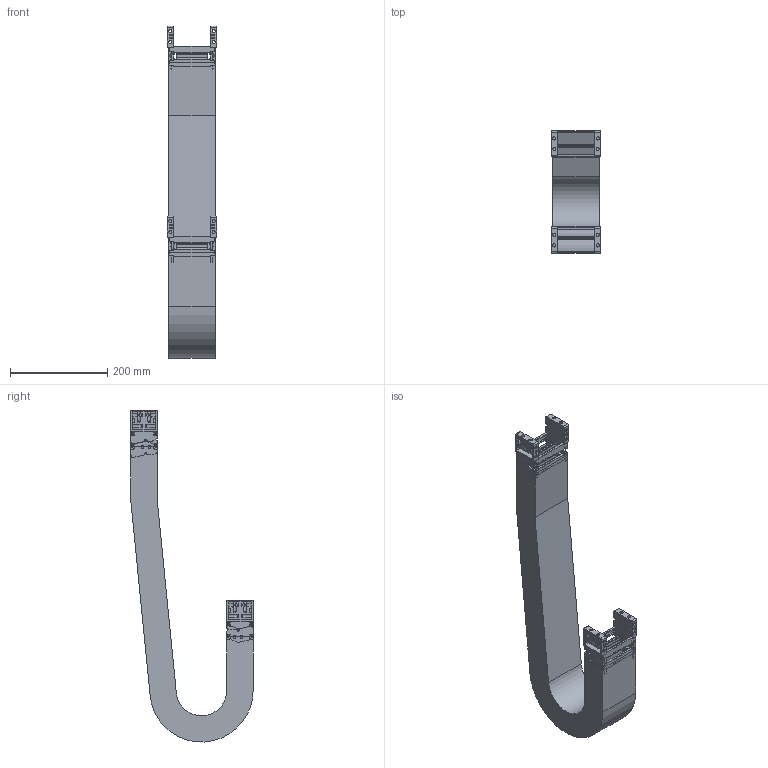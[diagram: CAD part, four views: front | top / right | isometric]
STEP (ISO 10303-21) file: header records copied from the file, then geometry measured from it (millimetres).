
FILE_DESCRIPTION((''),'2;1');
FILE_NAME('KST-40075-075_ASM','2017-12-06T',('KUNI004K'),(''),'PRO/ENGINEER BY PARAMETRIC TECHNOLOGY CORPORATION, 2015200','PRO/ENGINEER BY PARAMETRIC TECHNOLOGY CORPORATION, 2015200','');
FILE_SCHEMA(('AUTOMOTIVE_DESIGN { 1 0 10303 214 1 1 1 1 }'));
Length unit declared in the file: millimetre
Products named in the file (13): 40FBR; 40FBL; 40075C; KST40FB_W075_ASM; KST40075R; KST40075L; 40075H; KST40075-075_1_ASM; KST40075_R75_BODY; 40MBR; 40MBL; KST40MB_W075_ASM; KST-40075-075_ASM
Assembly tree (19 placements, depth 3):
  KST-40075-075_ASM
    KST40FB_W075_ASM
      40FBR
      40FBL
      40075C  x2
    KST40075-075_1_ASM  x2
      KST40075R
      KST40075L
      40075C
      40075H
    KST40075_R75_BODY
    KST40MB_W075_ASM
      40MBR
      40MBL
      40075C  x2
Bounding box: 101 x 251 x 681.42 mm (x, y, z)
Volume: 1989212.9 mm3; surface area: 712683.5 mm2
Topology: 21 solids, 21 shells, 2712 faces, 7390 edges, 4748 vertices
Faces by surface type: plane 1406, cylinder 938, bspline 300, torus 68
Entity records: 67386 total; most frequent: CARTESIAN_POINT 13901, ORIENTED_EDGE 7176, DIRECTION 6512, PRESENTATION_STYLE_ASSIGNMENT 4896, STYLED_ITEM 4896, CURVE_STYLE 3588, EDGE_CURVE 3588, VERTEX_POINT 2320
